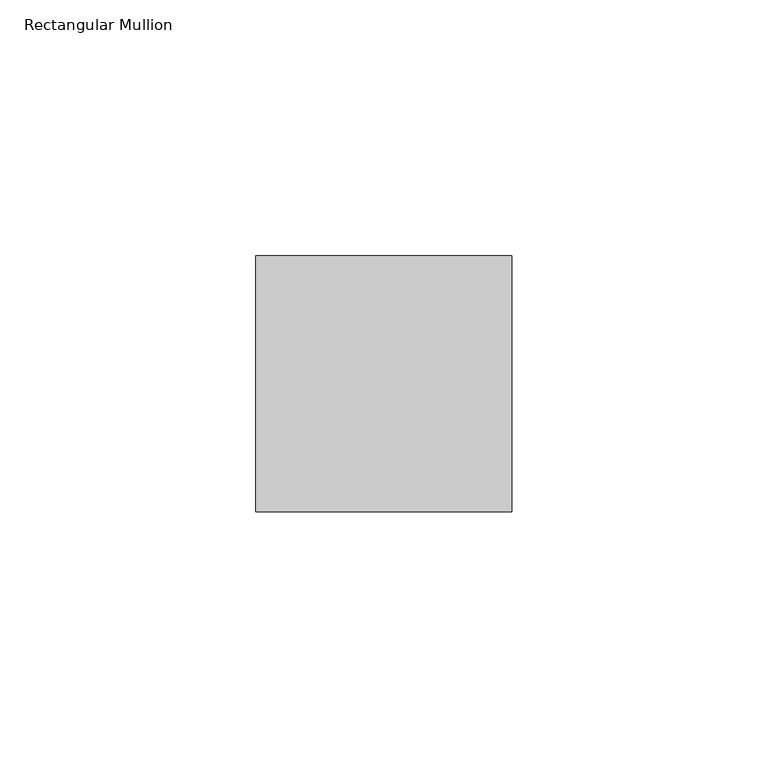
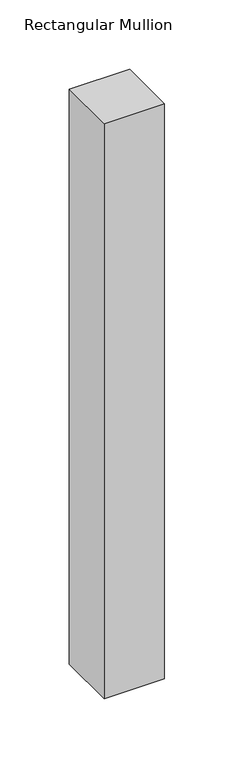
"""IFC4 building model written with IfcOpenShell, lengths in millimetres: member geometry, Rectangular Mullion : RSen_21_CWM_support profile 50x50 - left_gen_duco projects."""

import ifcopenshell
import ifcopenshell.guid

model = None  # the IFC model being written
_history = None  # IfcOwnerHistory: only IFC2X3 demands one
_inside = {}  # id of a spatial element -> (the spatial element, [elements in it])
_under = {}  # id of a project, library or spatial element -> (it, [spatial elements below it])
_declared = {}  # id of a project -> (the project, [libraries it declares])
_typed = {}  # id of a type object -> (the type object, [elements of that type])
_made_of = {}  # id of a material, layer set ... -> (it, [elements and type objects made of it])


def new_model(schema):
    """Start an empty IFC model of exactly this schema.

    Asked for "IFC4X3", IfcOpenShell would pick the latest addendum, in which some entities
    have other attributes; the version numbers below select the first issue.
    IFC2X3 requires an IfcOwnerHistory on every rooted entity: one is made here for all.
    """
    global model, _history
    if schema == "IFC4X3":
        model = ifcopenshell.file(schema_version=(4, 3, 0, 0))
    else:
        model = ifcopenshell.file(schema=schema)
    _inside.clear()
    _under.clear()
    _declared.clear()
    _typed.clear()
    _made_of.clear()
    _history = None
    if model.schema == "IFC2X3":
        org = make("IfcOrganization", Name="unknown")
        user = make(
            "IfcPersonAndOrganization",
            ThePerson=make("IfcPerson", FamilyName="unknown"),
            TheOrganization=org,
        )
        app = make(
            "IfcApplication",
            ApplicationDeveloper=org,
            Version="unknown",
            ApplicationFullName="unknown",
            ApplicationIdentifier="unknown",
        )
        _history = make(
            "IfcOwnerHistory",
            OwningUser=user,
            OwningApplication=app,
            ChangeAction="ADDED",
            CreationDate=0,
        )
    return model


def make(cls, **values):
    """One entity of the class cls with the attributes given. An attribute that is None is left unset."""
    return model.create_entity(
        cls, **{name: value for name, value in values.items() if value is not None}
    )


def rooted(cls, **values):
    """An entity with a GlobalId (a new one), such as an element, a storey or a relation."""
    return make(cls, GlobalId=ifcopenshell.guid.new(), OwnerHistory=_history, **values)


def si_unit(unit_type, name, prefix=None):
    """IfcSIUnit, for example si_unit("LENGTHUNIT", "METRE", prefix="MILLI")."""
    return make("IfcSIUnit", UnitType=unit_type, Prefix=prefix, Name=name)


def assignment(units):
    """IfcUnitAssignment: the units of a project."""
    return None if units is None else make("IfcUnitAssignment", Units=units)


def point(xyz):
    """IfcCartesianPoint."""
    return None if xyz is None else make("IfcCartesianPoint", Coordinates=xyz)


def direction(xyz):
    """IfcDirection."""
    return None if xyz is None else make("IfcDirection", DirectionRatios=xyz)


def frame(location, z_axis=None, x_axis=None):
    """IfcAxis2Placement3D, a coordinate frame: its origin and axes. An axis left out is left unset."""
    return make(
        "IfcAxis2Placement3D",
        Location=point(location),
        Axis=direction(z_axis),
        RefDirection=direction(x_axis),
    )


def origin():
    """The frame at (0, 0, 0) with its axes left unset."""
    return frame((0.0, 0.0, 0.0))


def place(relative_to, where):
    """IfcLocalPlacement: puts the frame where relative to a parent placement (None: the world)."""
    return make(
        "IfcLocalPlacement", PlacementRelTo=relative_to, RelativePlacement=where
    )


def context(
    kind, dimensions, precision=None, world=None, true_north=None, identifier=None
):
    """IfcGeometricRepresentationContext, for example the 3D "Model" context."""
    return make(
        "IfcGeometricRepresentationContext",
        ContextIdentifier=identifier,
        ContextType=kind,
        CoordinateSpaceDimension=dimensions,
        Precision=precision,
        WorldCoordinateSystem=world,
        TrueNorth=true_north,
    )


def project(units=None, contexts=None):
    """IfcProject with its units and contexts."""
    return rooted(
        "IfcProject",
        Name="project",
        RepresentationContexts=contexts,
        UnitsInContext=assignment(units),
    )


def spatial(cls, under=None, at=None, **own):
    """A site, building, storey or space (cls), placed at a placement, below another one or the project."""
    s = rooted(cls, ObjectPlacement=at, **own)
    if under is not None:
        _under.setdefault(under.id(), (under, []))[1].append(s)
    return s


def polyline(points):
    """IfcPolyline through the points."""
    return make("IfcPolyline", Points=[point(p) for p in points])


def outline(outer, holes=None, kind="AREA"):
    """IfcArbitraryClosedProfileDef: a profile drawn as a closed curve; with holes, ...WithVoids."""
    if holes is None:
        return make("IfcArbitraryClosedProfileDef", ProfileType=kind, OuterCurve=outer)
    return make(
        "IfcArbitraryProfileDefWithVoids",
        ProfileType=kind,
        OuterCurve=outer,
        InnerCurves=holes,
    )


def extrude(swept, where, along, depth):
    """IfcExtrudedAreaSolid: the profile swept, set in the frame where, extruded along a direction by depth."""
    return make(
        "IfcExtrudedAreaSolid",
        SweptArea=swept,
        Position=where,
        ExtrudedDirection=direction(along),
        Depth=depth,
    )


def shape(context_of_items, identifier, shape_type, items):
    """IfcShapeRepresentation: the items that make up one representation, for example the "Body"."""
    return make(
        "IfcShapeRepresentation",
        ContextOfItems=context_of_items,
        RepresentationIdentifier=identifier,
        RepresentationType=shape_type,
        Items=items,
    )


def source(mapping_origin, context_of_items, identifier, shape_type, items):
    """IfcRepresentationMap: a shape defined once, which mapped items show again and again."""
    return make(
        "IfcRepresentationMap",
        MappingOrigin=mapping_origin,
        MappedRepresentation=shape(context_of_items, identifier, shape_type, items),
    )


def transform(
    local_origin,
    x_axis=None,
    y_axis=None,
    z_axis=None,
    scale=None,
    scale2=None,
    scale3=None,
    uniform=True,
):
    """IfcCartesianTransformationOperator3D, or its non-uniform kind. x_axis, y_axis, z_axis: its Axis1, 2, 3."""
    if uniform:
        return make(
            "IfcCartesianTransformationOperator3D",
            Axis1=direction(x_axis),
            Axis2=direction(y_axis),
            LocalOrigin=point(local_origin),
            Scale=scale,
            Axis3=direction(z_axis),
        )
    return make(
        "IfcCartesianTransformationOperator3DnonUniform",
        Axis1=direction(x_axis),
        Axis2=direction(y_axis),
        LocalOrigin=point(local_origin),
        Scale=scale,
        Axis3=direction(z_axis),
        Scale2=scale2,
        Scale3=scale3,
    )


def mapped(mapping_source, mapping_target):
    """IfcMappedItem: shows the shape of a source again, moved by a transform."""
    return make(
        "IfcMappedItem", MappingSource=mapping_source, MappingTarget=mapping_target
    )


def made_of(thing, what):
    """Note that an element or type object is made of a material, layer set ...; save() writes the relation."""
    if what is not None:
        _made_of.setdefault(what.id(), (what, []))[1].append(thing)
    return thing


def element(
    cls,
    number,
    at=None,
    inside=None,
    cuts=None,
    type_object=None,
    material=None,
    context=None,
    identifier="Body",
    shape_type=None,
    held_by="IfcProductDefinitionShape",
    body=None,
    shapes=None,
    **own,
):
    """One element of the class cls, such as IfcWall. Its Tag is "e" and its number.

    at: its placement. inside: the storey or other place that contains it. cuts: it is an
    opening in that element (IfcRelVoidsElement). A single representation is given by context,
    identifier, shape_type and body (its items); several are given by shapes. held_by: the class
    of the entity that holds the representations. save() writes the other relations.
    """
    e = rooted(cls, Tag="e%d" % number, ObjectPlacement=at, **own)
    if body is not None:
        shapes = [shape(context, identifier, shape_type, body)]
    if shapes is not None:
        e.Representation = make(held_by, Representations=shapes)
    if inside is not None:
        _inside.setdefault(inside.id(), (inside, []))[1].append(e)
    if cuts is not None:
        rooted(
            "IfcRelVoidsElement", RelatingBuildingElement=cuts, RelatedOpeningElement=e
        )
    if type_object is not None:
        _typed.setdefault(type_object.id(), (type_object, []))[1].append(e)
    return made_of(e, material)


def aggregate(whole, parts):
    """IfcRelAggregates: a whole, such as a stair, and the parts it consists of."""
    return rooted("IfcRelAggregates", RelatingObject=whole, RelatedObjects=parts)


def save(model, path):
    """Write the relations noted so far, then the file.

    IfcRelAggregates (storeys below a building ...), IfcRelContainedInSpatialStructure (elements
    in a storey), IfcRelDefinesByType, IfcRelAssociatesMaterial and IfcRelDeclares: one each for
    every whole, place, type object, material and project.
    """
    for whole, parts in _under.values():
        aggregate(whole, parts)
    for where, things in _inside.values():
        rooted(
            "IfcRelContainedInSpatialStructure",
            RelatedElements=things,
            RelatingStructure=where,
        )
    for kind, things in _typed.values():
        rooted("IfcRelDefinesByType", RelatedObjects=things, RelatingType=kind)
    for what, things in _made_of.values():
        rooted("IfcRelAssociatesMaterial", RelatedObjects=things, RelatingMaterial=what)
    for by, libraries in _declared.values():
        rooted("IfcRelDeclares", RelatingContext=by, RelatedDefinitions=libraries)
    model.write(path)


def rectangular_mullion_a2429558(model_context):
    return source(origin(), model_context, "Body", "SweptSolid", [
        extrude(outline(polyline([(0.0, 1.0), (0.0, -49.0), (-50.0, -49.0), (-50.0, 1.0), (0.0, 1.0)])), frame((0.0, 0.0, -505.0), z_axis=(0.0, 0.0, 1.0), x_axis=(1.0, 0.0, 0.0)), (0.0, 0.0, 1.0), 505.0),
    ])


if __name__ == "__main__":
    model = new_model("IFC4")
    model_context = context("Model", 3, world=origin())
    ifc_project = project(units=[si_unit("LENGTHUNIT", "METRE", prefix="MILLI")], contexts=[model_context])
    site = spatial("IfcSite", under=ifc_project)
    building = spatial("IfcBuilding", under=site)
    placement = place(None, origin())
    rectangular_mullion_shape = rectangular_mullion_a2429558(model_context)
    element("IfcMember", 1, ObjectType="Rectangular Mullion : RSen_21_CWM_support profile 50x50 - left_gen_duco projects", at=placement, inside=building, context=model_context, shape_type="MappedRepresentation", body=[
        mapped(rectangular_mullion_shape, transform((0.0, 0.0, 0.0), x_axis=(1.0, 0.0, 0.0), y_axis=(0.0, 1.0, 0.0), z_axis=(0.0, 0.0, 1.0))),
    ])
    save(model, "model.ifc")
